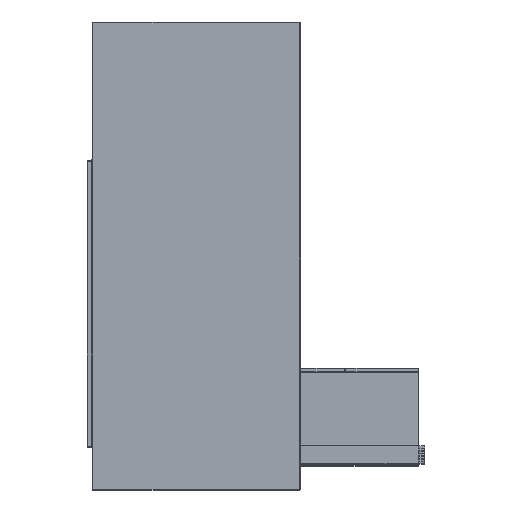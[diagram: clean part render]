
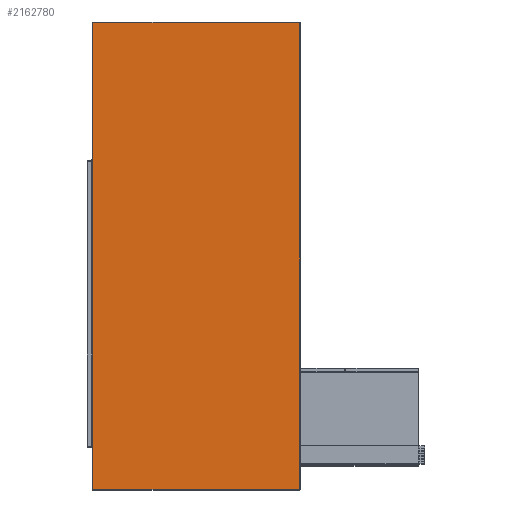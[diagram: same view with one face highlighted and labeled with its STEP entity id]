
A CAD part, top view. The second image highlights one B-rep face of the part: STEP entity #2162780.
In plain terms, the highlighted free-form (B-spline) face has degree [1, 1] with [2, 2] control points.
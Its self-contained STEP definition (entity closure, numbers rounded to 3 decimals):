
#2162430 = CARTESIAN_POINT ('', (-398., 898., 363.425));
#2162440 = VERTEX_POINT ('', #2162430);
#2162450 = CARTESIAN_POINT ('', (-398., -898., 363.425));
#2162460 = VERTEX_POINT ('', #2162450);
#2162470 = CARTESIAN_POINT ('', (-398., 898., 363.425));
#2162480 = CARTESIAN_POINT ('', (-398., -898., 363.425));
#2162490 = (
   BOUNDED_CURVE ()
   B_SPLINE_CURVE (1, (#2162470, #2162480), .UNSPECIFIED., .F., .U.)
   B_SPLINE_CURVE_WITH_KNOTS ((2, 2), (0., 1796.), .UNSPECIFIED.)
   CURVE ()
   GEOMETRIC_REPRESENTATION_ITEM ()
   RATIONAL_B_SPLINE_CURVE ((1., 1.))
   REPRESENTATION_ITEM ('')
);
#2162500 = EDGE_CURVE ('', #2162440, #2162460, #2162490, .T.);
#2162510 = ORIENTED_EDGE ('', *, *, #2162500, .T.);
#2162520 = CARTESIAN_POINT ('', (398., -898., 363.425));
#2162530 = VERTEX_POINT ('', #2162520);
#2162540 = CARTESIAN_POINT ('', (-398., -898., 363.425));
#2162550 = CARTESIAN_POINT ('', (398., -898., 363.425));
#2162560 = (
   BOUNDED_CURVE ()
   B_SPLINE_CURVE (1, (#2162540, #2162550), .UNSPECIFIED., .F., .U.)
   B_SPLINE_CURVE_WITH_KNOTS ((2, 2), (0., 796.), .UNSPECIFIED.)
   CURVE ()
   GEOMETRIC_REPRESENTATION_ITEM ()
   RATIONAL_B_SPLINE_CURVE ((1., 1.))
   REPRESENTATION_ITEM ('')
);
#2162570 = EDGE_CURVE ('', #2162460, #2162530, #2162560, .T.);
#2162580 = ORIENTED_EDGE ('', *, *, #2162570, .T.);
#2162590 = CARTESIAN_POINT ('', (398., 898., 363.425));
#2162600 = VERTEX_POINT ('', #2162590);
#2162610 = CARTESIAN_POINT ('', (398., -898., 363.425));
#2162620 = CARTESIAN_POINT ('', (398., 898., 363.425));
#2162630 = (
   BOUNDED_CURVE ()
   B_SPLINE_CURVE (1, (#2162610, #2162620), .UNSPECIFIED., .F., .U.)
   B_SPLINE_CURVE_WITH_KNOTS ((2, 2), (0., 1796.), .UNSPECIFIED.)
   CURVE ()
   GEOMETRIC_REPRESENTATION_ITEM ()
   RATIONAL_B_SPLINE_CURVE ((1., 1.))
   REPRESENTATION_ITEM ('')
);
#2162640 = EDGE_CURVE ('', #2162530, #2162600, #2162630, .T.);
#2162650 = ORIENTED_EDGE ('', *, *, #2162640, .T.);
#2162660 = CARTESIAN_POINT ('', (398., 898., 363.425));
#2162670 = CARTESIAN_POINT ('', (-398., 898., 363.425));
#2162680 = (
   BOUNDED_CURVE ()
   B_SPLINE_CURVE (1, (#2162660, #2162670), .UNSPECIFIED., .F., .U.)
   B_SPLINE_CURVE_WITH_KNOTS ((2, 2), (0., 796.), .UNSPECIFIED.)
   CURVE ()
   GEOMETRIC_REPRESENTATION_ITEM ()
   RATIONAL_B_SPLINE_CURVE ((1., 1.))
   REPRESENTATION_ITEM ('')
);
#2162690 = EDGE_CURVE ('', #2162600, #2162440, #2162680, .T.);
#2162700 = ORIENTED_EDGE ('', *, *, #2162690, .T.);
#2162710 = EDGE_LOOP ('', (#2162510, #2162580, #2162650, #2162700));
#2162720 = FACE_OUTER_BOUND ('', #2162710, .T.);
#2162730 = CARTESIAN_POINT ('', (1514.332, -2271.497, 363.425));
#2162740 = CARTESIAN_POINT ('', (-1514.332, -2271.497, 363.425));
#2162750 = CARTESIAN_POINT ('', (1514.332, 2271.497, 363.425));
#2162760 = CARTESIAN_POINT ('', (-1514.332, 2271.497, 363.425));
#2162770 = B_SPLINE_SURFACE_WITH_KNOTS ('', 1, 1, ((#2162730, #2162740), (#2162750, #2162760)), .UNSPECIFIED., .F., .F., .U., (2, 2), (2, 2), (0., 1.), (0., 1.), .UNSPECIFIED.);
#2162780 = ADVANCED_FACE ('', (#2162720), #2162770, .T.);
